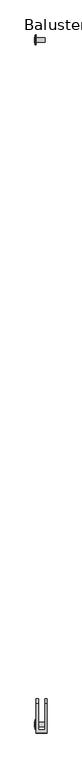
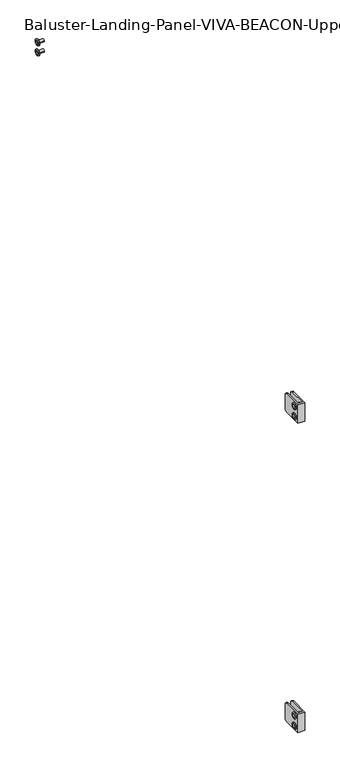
"""IFC4 building model written with IfcOpenShell, lengths in millimetres: railing geometry, Baluster-Landing-Panel-VIVA-BEACON-Upper : Standard_Glass."""

from ifc_helpers import new_model, si_unit, point, frame, origin, place, context, project, spatial, polyline, circle_curve, ellipse_curve, trimmed, outline, extrude, source, transform, mapped, element, save
from ifc_brep_helpers import plane_surface, cylinder_surface, revolved_surface, advanced_brep


def baluster_landing_panel_viva_beacon_upper_standard_glass_71d95eab(model_context):
    return source(origin(), model_context, "Body", "SolidModel", [
        extrude(outline(polyline([(-1009.1319632, 970.111725), (-1007.084999, 973.6571709), (-1002.9910707, 973.6571709), (-1000.9441066, 970.111725), (-1002.9910707, 966.5662791), (-1007.084999, 966.5662791), (-1009.1319632, 970.111725)])), frame((26.0686477, 0.0, 0.0), z_axis=(1.0, 0.0, 0.0), x_axis=(0.0, 1.0, 0.0)), (0.0, 0.0, 1.0), 1.4969696),
        advanced_brep(
        [(41.1327292, -1008.5834808, 970.111725), (28.4327292, -1008.5834808, 970.111725), (28.4327292, -1001.492589, 970.111725), (41.1327292, -1001.492589, 970.111725), (28.4327292, -1012.445824, 970.111725), (28.4327292, -997.6302458, 970.111725), (27.5656173, -1006.6941103, 970.111725), (41.1327292, -1006.6941103, 970.111725), (41.1327292, -1003.3819595, 970.111725), (27.5656173, -1003.3819595, 970.111725), (27.5978844, -1012.445824, 970.111725), (26.3166123, -1011.1645519, 970.111725), (26.3166123, -998.9115178, 970.111725), (27.5978844, -997.6302458, 970.111725), (26.3166123, -1009.3366304, 970.111725), (26.3166123, -1000.7394393, 970.111725), (27.5656173, -1009.3366304, 970.111725), (27.5656173, -1000.7394393, 970.111725)],
        [
            (0, 1),
            (1, 2, circle_curve(frame((28.4327292, -1005.0380349, 970.111725), z_axis=(1.0, 0.0, 0.0), x_axis=(0.0, 1.0, 0.0)), 3.5454459)),
            (2, 3),
            (3, 0, circle_curve(frame((41.1327292, -1005.0380349, 970.111725), z_axis=(-1.0, 0.0, 0.0), x_axis=(0.0, 1.0, 0.0)), 3.5454459)),
            (2, 1, circle_curve(frame((28.4327292, -1005.0380349, 970.111725), z_axis=(1.0, 0.0, 0.0), x_axis=(0.0, 1.0, 0.0)), 3.5454459)),
            (0, 3, circle_curve(frame((41.1327292, -1005.0380349, 970.111725), z_axis=(-1.0, 0.0, 0.0), x_axis=(0.0, 1.0, 0.0)), 3.5454459)),
            (1, 4),
            (4, 5, circle_curve(frame((28.4327292, -1005.0380349, 970.111725), z_axis=(1.0, 0.0, 0.0), x_axis=(0.0, 1.0, 0.0)), 7.4077891)),
            (5, 2),
            (5, 4, circle_curve(frame((28.4327292, -1005.0380349, 970.111725), z_axis=(1.0, 0.0, 0.0), x_axis=(0.0, 1.0, 0.0)), 7.4077891)),
            (6, 7),
            (7, 8, circle_curve(frame((41.1327292, -1005.0380349, 970.111725), z_axis=(1.0, 0.0, 0.0), x_axis=(0.0, 1.0, 0.0)), 1.6560754)),
            (8, 9),
            (9, 6, circle_curve(frame((27.5656173, -1005.0380349, 970.111725), z_axis=(-1.0, 0.0, 0.0), x_axis=(0.0, 1.0, 0.0)), 1.6560754)),
            (8, 7, circle_curve(frame((41.1327292, -1005.0380349, 970.111725), z_axis=(1.0, 0.0, 0.0), x_axis=(0.0, 1.0, 0.0)), 1.6560754)),
            (6, 9, circle_curve(frame((27.5656173, -1005.0380349, 970.111725), z_axis=(-1.0, 0.0, 0.0), x_axis=(0.0, 1.0, 0.0)), 1.6560754)),
            (10, 11, circle_curve(frame((27.5978844, -1011.1645519, 970.111725), z_axis=(0.0, 0.0, -1.0), x_axis=(0.0, -1.0, 0.0)), 1.281272)),
            (11, 12, circle_curve(frame((26.3166123, -1005.0380349, 970.111725), z_axis=(1.0, 0.0, 0.0), x_axis=(0.0, 1.0, 0.0)), 6.1265171)),
            (12, 13, circle_curve(frame((27.5978844, -998.9115178, 970.111725), z_axis=(0.0, 0.0, -1.0), x_axis=(0.0, 1.0, 0.0)), 1.281272)),
            (13, 10, circle_curve(frame((27.5978844, -1005.0380349, 970.111725), z_axis=(-1.0, 0.0, 0.0), x_axis=(0.0, 1.0, 0.0)), 7.4077891)),
            (12, 11, circle_curve(frame((26.3166123, -1005.0380349, 970.111725), z_axis=(1.0, 0.0, 0.0), x_axis=(0.0, 1.0, 0.0)), 6.1265171)),
            (10, 13, circle_curve(frame((27.5978844, -1005.0380349, 970.111725), z_axis=(-1.0, 0.0, 0.0), x_axis=(0.0, 1.0, 0.0)), 7.4077891)),
            (11, 14),
            (14, 15, circle_curve(frame((26.3166123, -1005.0380349, 970.111725), z_axis=(1.0, 0.0, 0.0), x_axis=(0.0, 1.0, 0.0)), 4.2985955)),
            (15, 12),
            (15, 14, circle_curve(frame((26.3166123, -1005.0380349, 970.111725), z_axis=(1.0, 0.0, 0.0), x_axis=(0.0, 1.0, 0.0)), 4.2985955)),
            (4, 10),
            (13, 5),
            (7, 0),
            (3, 8),
            (14, 16),
            (16, 17, circle_curve(frame((27.5656173, -1005.0380349, 970.111725), z_axis=(1.0, 0.0, 0.0), x_axis=(0.0, 1.0, 0.0)), 4.2985955)),
            (17, 15),
            (17, 16, circle_curve(frame((27.5656173, -1005.0380349, 970.111725), z_axis=(1.0, 0.0, 0.0), x_axis=(0.0, 1.0, 0.0)), 4.2985955)),
            (16, 6),
            (9, 17),
        ],
        [
            cylinder_surface(frame((31.9294623, -1005.0380349, 970.111725), z_axis=(1.0, 0.0, 0.0), x_axis=(0.0, 1.0, 0.0)), 3.5454459),
            plane_surface(frame((28.4327292, -1005.0380349, 970.111725), z_axis=(1.0, 0.0, 0.0), x_axis=(0.0, 1.0, 0.0))),
            revolved_surface(polyline([(41.1327292, -1003.3819595, 970.111725), (27.5656173, -1003.3819595, 970.111725)]), (31.9294623, -1005.0380349, 970.111725), (1.0, 0.0, 0.0)),
            revolved_surface(trimmed(ellipse_curve(frame((27.5978844, -998.9115178, 970.111725), z_axis=(0.0, 0.0, -1.0), x_axis=(0.0, 1.0, 0.0)), 1.281272, 1.281272), [point((26.3166123, -998.9115178, 970.111725))], [point((27.5978844, -997.6302458, 970.111725))], True, "CARTESIAN"), (31.9294623, -1005.0380349, 970.111725), (1.0, 0.0, 0.0)),
            plane_surface(frame((26.3166123, -1005.0380349, 970.111725), z_axis=(-1.0, 0.0, 0.0), x_axis=(0.0, 1.0, 0.0))),
            cylinder_surface(frame((31.9294623, -1005.0380349, 970.111725), z_axis=(1.0, 0.0, 0.0), x_axis=(0.0, 1.0, 0.0)), 7.4077891),
            plane_surface(frame((41.1327292, -1005.0380349, 970.111725), z_axis=(1.0, 0.0, 0.0), x_axis=(0.0, 1.0, 0.0))),
            revolved_surface(polyline([(27.5656173, -1000.7394393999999, 970.111725), (26.3166123, -1000.7394393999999, 970.111725)]), (31.9294623, -1005.0380349, 970.111725), (1.0, 0.0, 0.0)),
            plane_surface(frame((27.5656173, -1005.0380349, 970.111725), z_axis=(-1.0, 0.0, 0.0), x_axis=(0.0, 1.0, 0.0))),
        ],
        [
            (0, [[1, 2, 3, 4]]),
            (0, [[-3, 5, -1, 6]]),
            (1, [[7, 8, 9, -2]]),
            (1, [[-9, 10, -7, -5]]),
            (2, [[11, 12, 13, 14]]),
            (2, [[-13, 15, -11, 16]]),
            (3, [[17, 18, 19, 20]]),
            (3, [[-19, 21, -17, 22]]),
            (4, [[23, 24, 25, -18]]),
            (4, [[-25, 26, -23, -21]]),
            (5, [[27, -20, 28, -8]]),
            (5, [[-28, -22, -27, -10]]),
            (6, [[29, -4, 30, -12]]),
            (6, [[-30, -6, -29, -15]]),
            (7, [[31, 32, 33, -24]]),
            (7, [[-33, 34, -31, -26]]),
            (8, [[35, -14, 36, -32]]),
            (8, [[-36, -16, -35, -34]]),
        ],
    ),
        advanced_brep(
        [(41.1327292, -1008.5834808, 945.505475), (28.4327292, -1008.5834808, 945.505475), (28.4327292, -1001.492589, 945.505475), (41.1327292, -1001.492589, 945.505475), (28.4327292, -1012.445824, 945.505475), (28.4327292, -997.6302458, 945.505475), (27.5656173, -1006.6941103, 945.505475), (41.1327292, -1006.6941103, 945.505475), (41.1327292, -1003.3819595, 945.505475), (27.5656173, -1003.3819595, 945.505475), (27.5978844, -1012.445824, 945.505475), (26.3166123, -1011.1645519, 945.505475), (26.3166123, -998.9115178, 945.505475), (27.5978844, -997.6302458, 945.505475), (26.3166123, -1009.3366304, 945.505475), (26.3166123, -1000.7394393, 945.505475), (27.5656173, -1009.3366304, 945.505475), (27.5656173, -1000.7394393, 945.505475)],
        [
            (0, 1),
            (1, 2, circle_curve(frame((28.4327292, -1005.0380349, 945.505475), z_axis=(1.0, 0.0, 0.0), x_axis=(0.0, 1.0, 0.0)), 3.5454459)),
            (2, 3),
            (3, 0, circle_curve(frame((41.1327292, -1005.0380349, 945.505475), z_axis=(-1.0, 0.0, 0.0), x_axis=(0.0, 1.0, 0.0)), 3.5454459)),
            (2, 1, circle_curve(frame((28.4327292, -1005.0380349, 945.505475), z_axis=(1.0, 0.0, 0.0), x_axis=(0.0, 1.0, 0.0)), 3.5454459)),
            (0, 3, circle_curve(frame((41.1327292, -1005.0380349, 945.505475), z_axis=(-1.0, 0.0, 0.0), x_axis=(0.0, 1.0, 0.0)), 3.5454459)),
            (1, 4),
            (4, 5, circle_curve(frame((28.4327292, -1005.0380349, 945.505475), z_axis=(1.0, 0.0, 0.0), x_axis=(0.0, 1.0, 0.0)), 7.4077891)),
            (5, 2),
            (5, 4, circle_curve(frame((28.4327292, -1005.0380349, 945.505475), z_axis=(1.0, 0.0, 0.0), x_axis=(0.0, 1.0, 0.0)), 7.4077891)),
            (6, 7),
            (7, 8, circle_curve(frame((41.1327292, -1005.0380349, 945.505475), z_axis=(1.0, 0.0, 0.0), x_axis=(0.0, 1.0, 0.0)), 1.6560754)),
            (8, 9),
            (9, 6, circle_curve(frame((27.5656173, -1005.0380349, 945.505475), z_axis=(-1.0, 0.0, 0.0), x_axis=(0.0, 1.0, 0.0)), 1.6560754)),
            (8, 7, circle_curve(frame((41.1327292, -1005.0380349, 945.505475), z_axis=(1.0, 0.0, 0.0), x_axis=(0.0, 1.0, 0.0)), 1.6560754)),
            (6, 9, circle_curve(frame((27.5656173, -1005.0380349, 945.505475), z_axis=(-1.0, 0.0, 0.0), x_axis=(0.0, 1.0, 0.0)), 1.6560754)),
            (10, 11, circle_curve(frame((27.5978844, -1011.1645519, 945.505475), z_axis=(0.0, 0.0, -1.0), x_axis=(0.0, -1.0, 0.0)), 1.281272)),
            (11, 12, circle_curve(frame((26.3166123, -1005.0380349, 945.505475), z_axis=(1.0, 0.0, 0.0), x_axis=(0.0, 1.0, 0.0)), 6.1265171)),
            (12, 13, circle_curve(frame((27.5978844, -998.9115178, 945.505475), z_axis=(0.0, 0.0, -1.0), x_axis=(0.0, 1.0, 0.0)), 1.281272)),
            (13, 10, circle_curve(frame((27.5978844, -1005.0380349, 945.505475), z_axis=(-1.0, 0.0, 0.0), x_axis=(0.0, 1.0, 0.0)), 7.4077891)),
            (12, 11, circle_curve(frame((26.3166123, -1005.0380349, 945.505475), z_axis=(1.0, 0.0, 0.0), x_axis=(0.0, 1.0, 0.0)), 6.1265171)),
            (10, 13, circle_curve(frame((27.5978844, -1005.0380349, 945.505475), z_axis=(-1.0, 0.0, 0.0), x_axis=(0.0, 1.0, 0.0)), 7.4077891)),
            (11, 14),
            (14, 15, circle_curve(frame((26.3166123, -1005.0380349, 945.505475), z_axis=(1.0, 0.0, 0.0), x_axis=(0.0, 1.0, 0.0)), 4.2985955)),
            (15, 12),
            (15, 14, circle_curve(frame((26.3166123, -1005.0380349, 945.505475), z_axis=(1.0, 0.0, 0.0), x_axis=(0.0, 1.0, 0.0)), 4.2985955)),
            (7, 0),
            (3, 8),
            (4, 10),
            (13, 5),
            (14, 16),
            (16, 17, circle_curve(frame((27.5656173, -1005.0380349, 945.505475), z_axis=(1.0, 0.0, 0.0), x_axis=(0.0, 1.0, 0.0)), 4.2985955)),
            (17, 15),
            (17, 16, circle_curve(frame((27.5656173, -1005.0380349, 945.505475), z_axis=(1.0, 0.0, 0.0), x_axis=(0.0, 1.0, 0.0)), 4.2985955)),
            (16, 6),
            (9, 17),
        ],
        [
            cylinder_surface(frame((31.9294623, -1005.0380349, 945.505475), z_axis=(1.0, 0.0, 0.0), x_axis=(0.0, 1.0, 0.0)), 3.5454459),
            plane_surface(frame((28.4327292, -1005.0380349, 945.505475), z_axis=(1.0, 0.0, 0.0), x_axis=(0.0, 1.0, 0.0))),
            revolved_surface(polyline([(41.1327292, -1003.3819595, 945.505475), (27.5656173, -1003.3819595, 945.505475)]), (31.9294623, -1005.0380349, 945.505475), (1.0, 0.0, 0.0)),
            revolved_surface(trimmed(ellipse_curve(frame((27.5978844, -998.9115178, 945.505475), z_axis=(0.0, 0.0, -1.0), x_axis=(0.0, 1.0, 0.0)), 1.281272, 1.281272), [point((26.3166123, -998.9115178, 945.505475))], [point((27.5978844, -997.6302458, 945.505475))], True, "CARTESIAN"), (31.9294623, -1005.0380349, 945.505475), (1.0, 0.0, 0.0)),
            plane_surface(frame((26.3166123, -1005.0380349, 945.505475), z_axis=(-1.0, 0.0, 0.0), x_axis=(0.0, 1.0, 0.0))),
            plane_surface(frame((41.1327292, -1005.0380349, 945.505475), z_axis=(1.0, 0.0, 0.0), x_axis=(0.0, 1.0, 0.0))),
            cylinder_surface(frame((31.9294623, -1005.0380349, 945.505475), z_axis=(1.0, 0.0, 0.0), x_axis=(0.0, 1.0, 0.0)), 7.4077891),
            revolved_surface(polyline([(27.5656173, -1000.7394393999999, 945.505475), (26.3166123, -1000.7394393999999, 945.505475)]), (31.9294623, -1005.0380349, 945.505475), (1.0, 0.0, 0.0)),
            plane_surface(frame((27.5656173, -1005.0380349, 945.505475), z_axis=(-1.0, 0.0, 0.0), x_axis=(0.0, 1.0, 0.0))),
        ],
        [
            (0, [[1, 2, 3, 4]]),
            (0, [[-3, 5, -1, 6]]),
            (1, [[7, 8, 9, -2]]),
            (1, [[-9, 10, -7, -5]]),
            (2, [[11, 12, 13, 14]]),
            (2, [[-13, 15, -11, 16]]),
            (3, [[17, 18, 19, 20]]),
            (3, [[-19, 21, -17, 22]]),
            (4, [[23, 24, 25, -18]]),
            (4, [[-25, 26, -23, -21]]),
            (5, [[27, -4, 28, -12]]),
            (5, [[-28, -6, -27, -15]]),
            (6, [[29, -20, 30, -8]]),
            (6, [[-30, -22, -29, -10]]),
            (7, [[31, 32, 33, -24]]),
            (7, [[-33, 34, -31, -26]]),
            (8, [[35, -14, 36, -32]]),
            (8, [[-36, -16, -35, -34]]),
        ],
    ),
        extrude(outline(polyline([(-1009.1319632, 945.505475), (-1007.084999, 949.0509209), (-1002.9910707, 949.0509209), (-1000.9441066, 945.505475), (-1002.9910707, 941.9600291), (-1007.084999, 941.9600291), (-1009.1319632, 945.505475)])), frame((26.0686477, 0.0, 0.0), z_axis=(1.0, 0.0, 0.0), x_axis=(0.0, 1.0, 0.0)), (0.0, 0.0, 1.0), 1.4969696),
        advanced_brep(
        [(28.4327292, -1017.6713797, 980.0336), (28.4327292, -973.2213797, 980.0336), (28.4327292, -966.8713797, 973.6836), (28.4327292, -966.8713797, 941.9336), (28.4327292, -973.2213797, 935.5836), (28.4327292, -1017.6713797, 935.5836), (44.3077292, -1017.6713797, 980.0336), (44.3077292, -1017.6713797, 935.5836), (44.3077292, -973.2213797, 935.5836), (44.3077292, -966.8713797, 941.9336), (44.3077292, -966.8713797, 973.6836), (44.3077292, -973.2213797, 980.0336), (31.6077292, -973.2213797, 935.5836), (31.6077292, -1012.9532993, 935.5836), (41.1327292, -1012.9532993, 935.5836), (41.1327292, -973.2213797, 935.5836), (31.6077292, -1012.9532993, 980.0336), (41.1327292, -1012.9532993, 980.0336), (31.6077292, -966.8713797, 941.9336), (31.6077292, -966.8713797, 973.6836), (31.6077292, -973.2213797, 980.0336), (41.1327292, -973.2213797, 980.0336), (41.1327292, -966.8713797, 973.6836), (41.1327292, -966.8713797, 941.9336)],
        [
            (0, 1),
            (1, 2, circle_curve(frame((28.4327292, -973.2213797, 973.6836), z_axis=(-1.0, 0.0, 0.0), x_axis=(0.0, 1.0, 0.0)), 6.35)),
            (2, 3),
            (3, 4, circle_curve(frame((28.4327292, -973.2213797, 941.9336), z_axis=(-1.0, 0.0, 0.0), x_axis=(0.0, 1.0, 0.0)), 6.35)),
            (4, 5),
            (5, 0),
            (6, 7),
            (7, 8),
            (8, 9, circle_curve(frame((44.3077292, -973.2213797, 941.9336), z_axis=(1.0, 0.0, 0.0), x_axis=(0.0, 1.0, 0.0)), 6.35)),
            (9, 10),
            (10, 11, circle_curve(frame((44.3077292, -973.2213797, 973.6836), z_axis=(1.0, 0.0, 0.0), x_axis=(0.0, 1.0, 0.0)), 6.35)),
            (11, 6),
            (5, 7),
            (6, 0),
            (4, 12),
            (12, 13),
            (13, 14),
            (14, 15),
            (15, 8),
            (13, 16),
            (16, 17),
            (17, 14),
            (12, 18, circle_curve(frame((31.6077292, -973.2213797, 941.9336), z_axis=(1.0, 0.0, 0.0), x_axis=(0.0, 1.0, 0.0)), 6.35)),
            (18, 19),
            (19, 20, circle_curve(frame((31.6077292, -973.2213797, 973.6836), z_axis=(1.0, 0.0, 0.0), x_axis=(0.0, 1.0, 0.0)), 6.35)),
            (20, 16),
            (17, 21),
            (21, 22, circle_curve(frame((41.1327292, -973.2213797, 973.6836), z_axis=(-1.0, 0.0, 0.0), x_axis=(0.0, 1.0, 0.0)), 6.35)),
            (22, 23),
            (23, 15, circle_curve(frame((41.1327292, -973.2213797, 941.9336), z_axis=(-1.0, 0.0, 0.0), x_axis=(0.0, 1.0, 0.0)), 6.35)),
            (23, 9),
            (3, 18),
            (22, 10),
            (2, 19),
            (21, 11),
            (1, 20),
        ],
        [
            plane_surface(frame((28.4327292, -1017.6713797, 935.5836), z_axis=(-1.0, 0.0, 0.0), x_axis=(0.0, 0.0, -1.0))),
            plane_surface(frame((44.3077292, -1017.6713797, 935.5836), z_axis=(1.0, 0.0, 0.0), x_axis=(0.0, 0.0, 1.0))),
            plane_surface(frame((28.4327292, -1017.6713797, 980.0336), z_axis=(0.0, -1.0, 0.0), x_axis=(1.0, 0.0, 0.0))),
            plane_surface(frame((28.4327292, -1017.6713797, 935.5836), z_axis=(0.0, 0.0, -1.0), x_axis=(1.0, 0.0, 0.0))),
            plane_surface(frame((41.1327292, -1012.9532993, 992.7336), z_axis=(0.0, 1.0, 0.0), x_axis=(0.0, 0.0, -1.0))),
            plane_surface(frame((31.6077292, -1012.9532993, 992.7336), z_axis=(1.0, 0.0, 0.0), x_axis=(0.0, 0.0, -1.0))),
            plane_surface(frame((41.1327292, -954.1713797, 992.7336), z_axis=(-1.0, 0.0, 0.0), x_axis=(0.0, 0.0, -1.0))),
            cylinder_surface(frame((44.3077292, -973.2213797, 941.9336), z_axis=(-1.0, 0.0, 0.0), x_axis=(0.0, 1.0, 0.0)), 6.35),
            plane_surface(frame((28.4327292, -966.8713797, 941.9336), z_axis=(0.0, 1.0, 0.0), x_axis=(1.0, 0.0, 0.0))),
            cylinder_surface(frame((44.3077292, -973.2213797, 973.6836), z_axis=(-1.0, 0.0, 0.0), x_axis=(0.0, 1.0, 0.0)), 6.35),
            plane_surface(frame((28.4327292, -973.2213797, 980.0336), z_axis=(0.0, 0.0, 1.0), x_axis=(1.0, 0.0, 0.0))),
        ],
        [
            (0, [[1, 2, 3, 4, 5, 6]]),
            (1, [[7, 8, 9, 10, 11, 12]]),
            (2, [[13, -7, 14, -6]]),
            (3, [[15, 16, 17, 18, 19, -8, -13, -5]]),
            (4, [[-17, 20, 21, 22]]),
            (5, [[-16, 23, 24, 25, 26, -20]]),
            (6, [[27, 28, 29, 30, -18, -22]]),
            (7, [[-19, -30, 31, -9]]),
            (7, [[32, -23, -15, -4]]),
            (8, [[-31, -29, 33, -10]]),
            (8, [[34, -24, -32, -3]]),
            (9, [[-33, -28, 35, -11]]),
            (9, [[36, -25, -34, -2]]),
            (10, [[-14, -12, -35, -27, -21, -26, -36, -1]]),
        ],
    ),
        extrude(outline(polyline([(-1009.1319632, 220.73255), (-1007.084999, 224.2779959), (-1002.9910707, 224.2779959), (-1000.9441066, 220.73255), (-1002.9910707, 217.1871041), (-1007.084999, 217.1871041), (-1009.1319632, 220.73255)])), frame((26.0686477, 0.0, 0.0), z_axis=(1.0, 0.0, 0.0), x_axis=(0.0, 1.0, 0.0)), (0.0, 0.0, 1.0), 1.4969696),
        advanced_brep(
        [(41.1327292, -1008.5834808, 220.73255), (28.4327292, -1008.5834808, 220.73255), (28.4327292, -1001.492589, 220.73255), (41.1327292, -1001.492589, 220.73255), (28.4327292, -1012.445824, 220.73255), (28.4327292, -997.6302458, 220.73255), (27.5656173, -1006.6941103, 220.73255), (41.1327292, -1006.6941103, 220.73255), (41.1327292, -1003.3819595, 220.73255), (27.5656173, -1003.3819595, 220.73255), (27.5978844, -1012.445824, 220.73255), (26.3166123, -1011.1645519, 220.73255), (26.3166123, -998.9115178, 220.73255), (27.5978844, -997.6302458, 220.73255), (26.3166123, -1009.3366304, 220.73255), (26.3166123, -1000.7394393, 220.73255), (27.5656173, -1009.3366304, 220.73255), (27.5656173, -1000.7394393, 220.73255)],
        [
            (0, 1),
            (1, 2, circle_curve(frame((28.4327292, -1005.0380349, 220.73255), z_axis=(1.0, 0.0, 0.0), x_axis=(0.0, 1.0, 0.0)), 3.5454459)),
            (2, 3),
            (3, 0, circle_curve(frame((41.1327292, -1005.0380349, 220.73255), z_axis=(-1.0, 0.0, 0.0), x_axis=(0.0, 1.0, 0.0)), 3.5454459)),
            (2, 1, circle_curve(frame((28.4327292, -1005.0380349, 220.73255), z_axis=(1.0, 0.0, 0.0), x_axis=(0.0, 1.0, 0.0)), 3.5454459)),
            (0, 3, circle_curve(frame((41.1327292, -1005.0380349, 220.73255), z_axis=(-1.0, 0.0, 0.0), x_axis=(0.0, 1.0, 0.0)), 3.5454459)),
            (1, 4),
            (4, 5, circle_curve(frame((28.4327292, -1005.0380349, 220.73255), z_axis=(1.0, 0.0, 0.0), x_axis=(0.0, 1.0, 0.0)), 7.4077891)),
            (5, 2),
            (5, 4, circle_curve(frame((28.4327292, -1005.0380349, 220.73255), z_axis=(1.0, 0.0, 0.0), x_axis=(0.0, 1.0, 0.0)), 7.4077891)),
            (6, 7),
            (7, 8, circle_curve(frame((41.1327292, -1005.0380349, 220.73255), z_axis=(1.0, 0.0, 0.0), x_axis=(0.0, 1.0, 0.0)), 1.6560754)),
            (8, 9),
            (9, 6, circle_curve(frame((27.5656173, -1005.0380349, 220.73255), z_axis=(-1.0, 0.0, 0.0), x_axis=(0.0, 1.0, 0.0)), 1.6560754)),
            (8, 7, circle_curve(frame((41.1327292, -1005.0380349, 220.73255), z_axis=(1.0, 0.0, 0.0), x_axis=(0.0, 1.0, 0.0)), 1.6560754)),
            (6, 9, circle_curve(frame((27.5656173, -1005.0380349, 220.73255), z_axis=(-1.0, 0.0, 0.0), x_axis=(0.0, 1.0, 0.0)), 1.6560754)),
            (10, 11, circle_curve(frame((27.5978844, -1011.1645519, 220.73255), z_axis=(0.0, 0.0, -1.0), x_axis=(0.0, -1.0, 0.0)), 1.281272)),
            (11, 12, circle_curve(frame((26.3166123, -1005.0380349, 220.73255), z_axis=(1.0, 0.0, 0.0), x_axis=(0.0, 1.0, 0.0)), 6.1265171)),
            (12, 13, circle_curve(frame((27.5978844, -998.9115178, 220.73255), z_axis=(0.0, 0.0, -1.0), x_axis=(0.0, 1.0, 0.0)), 1.281272)),
            (13, 10, circle_curve(frame((27.5978844, -1005.0380349, 220.73255), z_axis=(-1.0, 0.0, 0.0), x_axis=(0.0, 1.0, 0.0)), 7.4077891)),
            (12, 11, circle_curve(frame((26.3166123, -1005.0380349, 220.73255), z_axis=(1.0, 0.0, 0.0), x_axis=(0.0, 1.0, 0.0)), 6.1265171)),
            (10, 13, circle_curve(frame((27.5978844, -1005.0380349, 220.73255), z_axis=(-1.0, 0.0, 0.0), x_axis=(0.0, 1.0, 0.0)), 7.4077891)),
            (11, 14),
            (14, 15, circle_curve(frame((26.3166123, -1005.0380349, 220.73255), z_axis=(1.0, 0.0, 0.0), x_axis=(0.0, 1.0, 0.0)), 4.2985955)),
            (15, 12),
            (15, 14, circle_curve(frame((26.3166123, -1005.0380349, 220.73255), z_axis=(1.0, 0.0, 0.0), x_axis=(0.0, 1.0, 0.0)), 4.2985955)),
            (4, 10),
            (13, 5),
            (7, 0),
            (3, 8),
            (14, 16),
            (16, 17, circle_curve(frame((27.5656173, -1005.0380349, 220.73255), z_axis=(1.0, 0.0, 0.0), x_axis=(0.0, 1.0, 0.0)), 4.2985955)),
            (17, 15),
            (17, 16, circle_curve(frame((27.5656173, -1005.0380349, 220.73255), z_axis=(1.0, 0.0, 0.0), x_axis=(0.0, 1.0, 0.0)), 4.2985955)),
            (16, 6),
            (9, 17),
        ],
        [
            cylinder_surface(frame((31.9294623, -1005.0380349, 220.73255), z_axis=(1.0, 0.0, 0.0), x_axis=(0.0, 1.0, 0.0)), 3.5454459),
            plane_surface(frame((28.4327292, -1005.0380349, 220.73255), z_axis=(1.0, 0.0, 0.0), x_axis=(0.0, 1.0, 0.0))),
            revolved_surface(polyline([(41.1327292, -1003.3819595, 220.73255), (27.5656173, -1003.3819595, 220.73255)]), (31.9294623, -1005.0380349, 220.73255), (1.0, 0.0, 0.0)),
            revolved_surface(trimmed(ellipse_curve(frame((27.5978844, -998.9115178, 220.73255), z_axis=(0.0, 0.0, -1.0), x_axis=(0.0, 1.0, 0.0)), 1.281272, 1.281272), [point((26.3166123, -998.9115178, 220.73255))], [point((27.5978844, -997.6302458, 220.73255))], True, "CARTESIAN"), (31.9294623, -1005.0380349, 220.73255), (1.0, 0.0, 0.0)),
            plane_surface(frame((26.3166123, -1005.0380349, 220.73255), z_axis=(-1.0, 0.0, 0.0), x_axis=(0.0, 1.0, 0.0))),
            cylinder_surface(frame((31.9294623, -1005.0380349, 220.73255), z_axis=(1.0, 0.0, 0.0), x_axis=(0.0, 1.0, 0.0)), 7.4077891),
            plane_surface(frame((41.1327292, -1005.0380349, 220.73255), z_axis=(1.0, 0.0, 0.0), x_axis=(0.0, 1.0, 0.0))),
            revolved_surface(polyline([(27.5656173, -1000.7394393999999, 220.73255), (26.3166123, -1000.7394393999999, 220.73255)]), (31.9294623, -1005.0380349, 220.73255), (1.0, 0.0, 0.0)),
            plane_surface(frame((27.5656173, -1005.0380349, 220.73255), z_axis=(-1.0, 0.0, 0.0), x_axis=(0.0, 1.0, 0.0))),
        ],
        [
            (0, [[1, 2, 3, 4]]),
            (0, [[-3, 5, -1, 6]]),
            (1, [[7, 8, 9, -2]]),
            (1, [[-9, 10, -7, -5]]),
            (2, [[11, 12, 13, 14]]),
            (2, [[-13, 15, -11, 16]]),
            (3, [[17, 18, 19, 20]]),
            (3, [[-19, 21, -17, 22]]),
            (4, [[23, 24, 25, -18]]),
            (4, [[-25, 26, -23, -21]]),
            (5, [[27, -20, 28, -8]]),
            (5, [[-28, -22, -27, -10]]),
            (6, [[29, -4, 30, -12]]),
            (6, [[-30, -6, -29, -15]]),
            (7, [[31, 32, 33, -24]]),
            (7, [[-33, 34, -31, -26]]),
            (8, [[35, -14, 36, -32]]),
            (8, [[-36, -16, -35, -34]]),
        ],
    ),
        advanced_brep(
        [(41.1327292, -1008.5834808, 196.1263), (28.4327292, -1008.5834808, 196.1263), (28.4327292, -1001.492589, 196.1263), (41.1327292, -1001.492589, 196.1263), (28.4327292, -1012.445824, 196.1263), (28.4327292, -997.6302458, 196.1263), (27.5656173, -1006.6941103, 196.1263), (41.1327292, -1006.6941103, 196.1263), (41.1327292, -1003.3819595, 196.1263), (27.5656173, -1003.3819595, 196.1263), (27.5978844, -1012.445824, 196.1263), (26.3166123, -1011.1645519, 196.1263), (26.3166123, -998.9115178, 196.1263), (27.5978844, -997.6302458, 196.1263), (26.3166123, -1009.3366304, 196.1263), (26.3166123, -1000.7394393, 196.1263), (27.5656173, -1009.3366304, 196.1263), (27.5656173, -1000.7394393, 196.1263)],
        [
            (0, 1),
            (1, 2, circle_curve(frame((28.4327292, -1005.0380349, 196.1263), z_axis=(1.0, 0.0, 0.0), x_axis=(0.0, 1.0, 0.0)), 3.5454459)),
            (2, 3),
            (3, 0, circle_curve(frame((41.1327292, -1005.0380349, 196.1263), z_axis=(-1.0, 0.0, 0.0), x_axis=(0.0, 1.0, 0.0)), 3.5454459)),
            (2, 1, circle_curve(frame((28.4327292, -1005.0380349, 196.1263), z_axis=(1.0, 0.0, 0.0), x_axis=(0.0, 1.0, 0.0)), 3.5454459)),
            (0, 3, circle_curve(frame((41.1327292, -1005.0380349, 196.1263), z_axis=(-1.0, 0.0, 0.0), x_axis=(0.0, 1.0, 0.0)), 3.5454459)),
            (1, 4),
            (4, 5, circle_curve(frame((28.4327292, -1005.0380349, 196.1263), z_axis=(1.0, 0.0, 0.0), x_axis=(0.0, 1.0, 0.0)), 7.4077891)),
            (5, 2),
            (5, 4, circle_curve(frame((28.4327292, -1005.0380349, 196.1263), z_axis=(1.0, 0.0, 0.0), x_axis=(0.0, 1.0, 0.0)), 7.4077891)),
            (6, 7),
            (7, 8, circle_curve(frame((41.1327292, -1005.0380349, 196.1263), z_axis=(1.0, 0.0, 0.0), x_axis=(0.0, 1.0, 0.0)), 1.6560754)),
            (8, 9),
            (9, 6, circle_curve(frame((27.5656173, -1005.0380349, 196.1263), z_axis=(-1.0, 0.0, 0.0), x_axis=(0.0, 1.0, 0.0)), 1.6560754)),
            (8, 7, circle_curve(frame((41.1327292, -1005.0380349, 196.1263), z_axis=(1.0, 0.0, 0.0), x_axis=(0.0, 1.0, 0.0)), 1.6560754)),
            (6, 9, circle_curve(frame((27.5656173, -1005.0380349, 196.1263), z_axis=(-1.0, 0.0, 0.0), x_axis=(0.0, 1.0, 0.0)), 1.6560754)),
            (10, 11, circle_curve(frame((27.5978844, -1011.1645519, 196.1263), z_axis=(0.0, 0.0, -1.0), x_axis=(0.0, -1.0, 0.0)), 1.281272)),
            (11, 12, circle_curve(frame((26.3166123, -1005.0380349, 196.1263), z_axis=(1.0, 0.0, 0.0), x_axis=(0.0, 1.0, 0.0)), 6.1265171)),
            (12, 13, circle_curve(frame((27.5978844, -998.9115178, 196.1263), z_axis=(0.0, 0.0, -1.0), x_axis=(0.0, 1.0, 0.0)), 1.281272)),
            (13, 10, circle_curve(frame((27.5978844, -1005.0380349, 196.1263), z_axis=(-1.0, 0.0, 0.0), x_axis=(0.0, 1.0, 0.0)), 7.4077891)),
            (12, 11, circle_curve(frame((26.3166123, -1005.0380349, 196.1263), z_axis=(1.0, 0.0, 0.0), x_axis=(0.0, 1.0, 0.0)), 6.1265171)),
            (10, 13, circle_curve(frame((27.5978844, -1005.0380349, 196.1263), z_axis=(-1.0, 0.0, 0.0), x_axis=(0.0, 1.0, 0.0)), 7.4077891)),
            (11, 14),
            (14, 15, circle_curve(frame((26.3166123, -1005.0380349, 196.1263), z_axis=(1.0, 0.0, 0.0), x_axis=(0.0, 1.0, 0.0)), 4.2985955)),
            (15, 12),
            (15, 14, circle_curve(frame((26.3166123, -1005.0380349, 196.1263), z_axis=(1.0, 0.0, 0.0), x_axis=(0.0, 1.0, 0.0)), 4.2985955)),
            (7, 0),
            (3, 8),
            (4, 10),
            (13, 5),
            (14, 16),
            (16, 17, circle_curve(frame((27.5656173, -1005.0380349, 196.1263), z_axis=(1.0, 0.0, 0.0), x_axis=(0.0, 1.0, 0.0)), 4.2985955)),
            (17, 15),
            (17, 16, circle_curve(frame((27.5656173, -1005.0380349, 196.1263), z_axis=(1.0, 0.0, 0.0), x_axis=(0.0, 1.0, 0.0)), 4.2985955)),
            (16, 6),
            (9, 17),
        ],
        [
            cylinder_surface(frame((31.9294623, -1005.0380349, 196.1263), z_axis=(1.0, 0.0, 0.0), x_axis=(0.0, 1.0, 0.0)), 3.5454459),
            plane_surface(frame((28.4327292, -1005.0380349, 196.1263), z_axis=(1.0, 0.0, 0.0), x_axis=(0.0, 1.0, 0.0))),
            revolved_surface(polyline([(41.1327292, -1003.3819595, 196.1263), (27.5656173, -1003.3819595, 196.1263)]), (31.9294623, -1005.0380349, 196.1263), (1.0, 0.0, 0.0)),
            revolved_surface(trimmed(ellipse_curve(frame((27.5978844, -998.9115178, 196.1263), z_axis=(0.0, 0.0, -1.0), x_axis=(0.0, 1.0, 0.0)), 1.281272, 1.281272), [point((26.3166123, -998.9115178, 196.1263))], [point((27.5978844, -997.6302458, 196.1263))], True, "CARTESIAN"), (31.9294623, -1005.0380349, 196.1263), (1.0, 0.0, 0.0)),
            plane_surface(frame((26.3166123, -1005.0380349, 196.1263), z_axis=(-1.0, 0.0, 0.0), x_axis=(0.0, 1.0, 0.0))),
            plane_surface(frame((41.1327292, -1005.0380349, 196.1263), z_axis=(1.0, 0.0, 0.0), x_axis=(0.0, 1.0, 0.0))),
            cylinder_surface(frame((31.9294623, -1005.0380349, 196.1263), z_axis=(1.0, 0.0, 0.0), x_axis=(0.0, 1.0, 0.0)), 7.4077891),
            revolved_surface(polyline([(27.5656173, -1000.7394393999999, 196.1263), (26.3166123, -1000.7394393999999, 196.1263)]), (31.9294623, -1005.0380349, 196.1263), (1.0, 0.0, 0.0)),
            plane_surface(frame((27.5656173, -1005.0380349, 196.1263), z_axis=(-1.0, 0.0, 0.0), x_axis=(0.0, 1.0, 0.0))),
        ],
        [
            (0, [[1, 2, 3, 4]]),
            (0, [[-3, 5, -1, 6]]),
            (1, [[7, 8, 9, -2]]),
            (1, [[-9, 10, -7, -5]]),
            (2, [[11, 12, 13, 14]]),
            (2, [[-13, 15, -11, 16]]),
            (3, [[17, 18, 19, 20]]),
            (3, [[-19, 21, -17, 22]]),
            (4, [[23, 24, 25, -18]]),
            (4, [[-25, 26, -23, -21]]),
            (5, [[27, -4, 28, -12]]),
            (5, [[-28, -6, -27, -15]]),
            (6, [[29, -20, 30, -8]]),
            (6, [[-30, -22, -29, -10]]),
            (7, [[31, 32, 33, -24]]),
            (7, [[-33, 34, -31, -26]]),
            (8, [[35, -14, 36, -32]]),
            (8, [[-36, -16, -35, -34]]),
        ],
    ),
        extrude(outline(polyline([(-1009.1319632, 196.1263), (-1007.084999, 199.6717459), (-1002.9910707, 199.6717459), (-1000.9441066, 196.1263), (-1002.9910707, 192.5808541), (-1007.084999, 192.5808541), (-1009.1319632, 196.1263)])), frame((26.0686477, 0.0, 0.0), z_axis=(1.0, 0.0, 0.0), x_axis=(0.0, 1.0, 0.0)), (0.0, 0.0, 1.0), 1.4969696),
        advanced_brep(
        [(28.4327292, -1017.6713797, 230.654425), (28.4327292, -973.2213797, 230.654425), (28.4327292, -966.8713797, 224.304425), (28.4327292, -966.8713797, 192.554425), (28.4327292, -973.2213797, 186.204425), (28.4327292, -1017.6713797, 186.204425), (44.3077292, -1017.6713797, 230.654425), (44.3077292, -1017.6713797, 186.204425), (44.3077292, -973.2213797, 186.204425), (44.3077292, -966.8713797, 192.554425), (44.3077292, -966.8713797, 224.304425), (44.3077292, -973.2213797, 230.654425), (31.6077292, -973.2213797, 186.204425), (31.6077292, -1012.9532993, 186.204425), (41.1327292, -1012.9532993, 186.204425), (41.1327292, -973.2213797, 186.204425), (31.6077292, -1012.9532993, 230.654425), (41.1327292, -1012.9532993, 230.654425), (31.6077292, -966.8713797, 192.554425), (31.6077292, -966.8713797, 224.304425), (31.6077292, -973.2213797, 230.654425), (41.1327292, -973.2213797, 230.654425), (41.1327292, -966.8713797, 224.304425), (41.1327292, -966.8713797, 192.554425)],
        [
            (0, 1),
            (1, 2, circle_curve(frame((28.4327292, -973.2213797, 224.304425), z_axis=(-1.0, 0.0, 0.0), x_axis=(0.0, 1.0, 0.0)), 6.35)),
            (2, 3),
            (3, 4, circle_curve(frame((28.4327292, -973.2213797, 192.554425), z_axis=(-1.0, 0.0, 0.0), x_axis=(0.0, 1.0, 0.0)), 6.35)),
            (4, 5),
            (5, 0),
            (6, 7),
            (7, 8),
            (8, 9, circle_curve(frame((44.3077292, -973.2213797, 192.554425), z_axis=(1.0, 0.0, 0.0), x_axis=(0.0, 1.0, 0.0)), 6.35)),
            (9, 10),
            (10, 11, circle_curve(frame((44.3077292, -973.2213797, 224.304425), z_axis=(1.0, 0.0, 0.0), x_axis=(0.0, 1.0, 0.0)), 6.35)),
            (11, 6),
            (5, 7),
            (6, 0),
            (4, 12),
            (12, 13),
            (13, 14),
            (14, 15),
            (15, 8),
            (13, 16),
            (16, 17),
            (17, 14),
            (12, 18, circle_curve(frame((31.6077292, -973.2213797, 192.554425), z_axis=(1.0, 0.0, 0.0), x_axis=(0.0, 1.0, 0.0)), 6.35)),
            (18, 19),
            (19, 20, circle_curve(frame((31.6077292, -973.2213797, 224.304425), z_axis=(1.0, 0.0, 0.0), x_axis=(0.0, 1.0, 0.0)), 6.35)),
            (20, 16),
            (17, 21),
            (21, 22, circle_curve(frame((41.1327292, -973.2213797, 224.304425), z_axis=(-1.0, 0.0, 0.0), x_axis=(0.0, 1.0, 0.0)), 6.35)),
            (22, 23),
            (23, 15, circle_curve(frame((41.1327292, -973.2213797, 192.554425), z_axis=(-1.0, 0.0, 0.0), x_axis=(0.0, 1.0, 0.0)), 6.35)),
            (23, 9),
            (3, 18),
            (22, 10),
            (2, 19),
            (21, 11),
            (1, 20),
        ],
        [
            plane_surface(frame((28.4327292, -1017.6713797, 186.204425), z_axis=(-1.0, 0.0, 0.0), x_axis=(0.0, 0.0, -1.0))),
            plane_surface(frame((44.3077292, -1017.6713797, 186.204425), z_axis=(1.0, 0.0, 0.0), x_axis=(0.0, 0.0, 1.0))),
            plane_surface(frame((28.4327292, -1017.6713797, 230.654425), z_axis=(0.0, -1.0, 0.0), x_axis=(1.0, 0.0, 0.0))),
            plane_surface(frame((28.4327292, -1017.6713797, 186.204425), z_axis=(0.0, 0.0, -1.0), x_axis=(1.0, 0.0, 0.0))),
            plane_surface(frame((41.1327292, -1012.9532993, 243.354425), z_axis=(0.0, 1.0, 0.0), x_axis=(0.0, 0.0, -1.0))),
            plane_surface(frame((31.6077292, -1012.9532993, 243.354425), z_axis=(1.0, 0.0, 0.0), x_axis=(0.0, 0.0, -1.0))),
            plane_surface(frame((41.1327292, -954.1713797, 243.354425), z_axis=(-1.0, 0.0, 0.0), x_axis=(0.0, 0.0, -1.0))),
            cylinder_surface(frame((44.3077292, -973.2213797, 192.554425), z_axis=(-1.0, 0.0, 0.0), x_axis=(0.0, 1.0, 0.0)), 6.35),
            plane_surface(frame((28.4327292, -966.8713797, 192.554425), z_axis=(0.0, 1.0, 0.0), x_axis=(1.0, 0.0, 0.0))),
            cylinder_surface(frame((44.3077292, -973.2213797, 224.304425), z_axis=(-1.0, 0.0, 0.0), x_axis=(0.0, 1.0, 0.0)), 6.35),
            plane_surface(frame((28.4327292, -973.2213797, 230.654425), z_axis=(0.0, 0.0, 1.0), x_axis=(1.0, 0.0, 0.0))),
        ],
        [
            (0, [[1, 2, 3, 4, 5, 6]]),
            (1, [[7, 8, 9, 10, 11, 12]]),
            (2, [[13, -7, 14, -6]]),
            (3, [[15, 16, 17, 18, 19, -8, -13, -5]]),
            (4, [[-17, 20, 21, 22]]),
            (5, [[-16, 23, 24, 25, 26, -20]]),
            (6, [[27, 28, 29, 30, -18, -22]]),
            (7, [[-19, -30, 31, -9]]),
            (7, [[32, -23, -15, -4]]),
            (8, [[-31, -29, 33, -10]]),
            (8, [[34, -24, -32, -3]]),
            (9, [[-33, -28, 35, -11]]),
            (9, [[36, -25, -34, -2]]),
            (10, [[-14, -12, -35, -27, -21, -26, -36, -1]]),
        ],
    ),
        extrude(outline(polyline([(18.4480835, 1233.0379051), (16.4011194, 1229.4924592), (12.3071911, 1229.4924592), (10.2602269, 1233.0379051), (12.3071911, 1236.583351), (16.4011194, 1236.583351), (18.4480835, 1233.0379051)])), frame((26.0686477, 0.0, 0.0), z_axis=(1.0, 0.0, 0.0), x_axis=(0.0, 1.0, 0.0)), (0.0, 0.0, 1.0), 1.4969696),
        advanced_brep(
        [(41.1327292, 17.8996011, 1233.0379051), (41.1327292, 10.8087093, 1233.0379051), (28.4327292, 10.8087093, 1233.0379051), (28.4327292, 17.8996011, 1233.0379051), (28.4327292, 6.9463661, 1233.0379051), (28.4327292, 21.7619443, 1233.0379051), (27.5656173, 16.0102306, 1233.0379051), (27.5656173, 12.6980798, 1233.0379051), (41.1327292, 12.6980798, 1233.0379051), (41.1327292, 16.0102306, 1233.0379051), (27.5978844, 21.7619443, 1233.0379051), (27.5978844, 6.9463661, 1233.0379051), (26.3166123, 8.2276382, 1233.0379051), (26.3166123, 20.4806723, 1233.0379051), (26.3166123, 10.0555597, 1233.0379051), (26.3166123, 18.6527508, 1233.0379051), (27.5656173, 10.0555597, 1233.0379051), (27.5656173, 18.6527508, 1233.0379051)],
        [
            (0, 1, circle_curve(frame((41.1327292, 14.3541552, 1233.0379051), z_axis=(-1.0, 0.0, 0.0), x_axis=(0.0, -1.0, 0.0)), 3.5454459)),
            (1, 2),
            (2, 3, circle_curve(frame((28.4327292, 14.3541552, 1233.0379051), z_axis=(1.0, 0.0, 0.0), x_axis=(0.0, -1.0, 0.0)), 3.5454459)),
            (3, 0),
            (1, 0, circle_curve(frame((41.1327292, 14.3541552, 1233.0379051), z_axis=(-1.0, 0.0, 0.0), x_axis=(0.0, -1.0, 0.0)), 3.5454459)),
            (3, 2, circle_curve(frame((28.4327292, 14.3541552, 1233.0379051), z_axis=(1.0, 0.0, 0.0), x_axis=(0.0, -1.0, 0.0)), 3.5454459)),
            (2, 4),
            (4, 5, circle_curve(frame((28.4327292, 14.3541552, 1233.0379051), z_axis=(1.0, 0.0, 0.0), x_axis=(0.0, -1.0, 0.0)), 7.4077891)),
            (5, 3),
            (5, 4, circle_curve(frame((28.4327292, 14.3541552, 1233.0379051), z_axis=(1.0, 0.0, 0.0), x_axis=(0.0, -1.0, 0.0)), 7.4077891)),
            (6, 7, circle_curve(frame((27.5656173, 14.3541552, 1233.0379051), z_axis=(-1.0, 0.0, 0.0), x_axis=(0.0, -1.0, 0.0)), 1.6560754)),
            (7, 8),
            (8, 9, circle_curve(frame((41.1327292, 14.3541552, 1233.0379051), z_axis=(1.0, 0.0, 0.0), x_axis=(0.0, -1.0, 0.0)), 1.6560754)),
            (9, 6),
            (7, 6, circle_curve(frame((27.5656173, 14.3541552, 1233.0379051), z_axis=(-1.0, 0.0, 0.0), x_axis=(0.0, -1.0, 0.0)), 1.6560754)),
            (9, 8, circle_curve(frame((41.1327292, 14.3541552, 1233.0379051), z_axis=(1.0, 0.0, 0.0), x_axis=(0.0, -1.0, 0.0)), 1.6560754)),
            (10, 11, circle_curve(frame((27.5978844, 14.3541552, 1233.0379051), z_axis=(-1.0, 0.0, 0.0), x_axis=(0.0, -1.0, 0.0)), 7.4077891)),
            (11, 12, circle_curve(frame((27.5978844, 8.2276382, 1233.0379051), z_axis=(0.0, 0.0, -1.0), x_axis=(0.0, -1.0, 0.0)), 1.281272)),
            (12, 13, circle_curve(frame((26.3166123, 14.3541552, 1233.0379051), z_axis=(1.0, 0.0, 0.0), x_axis=(0.0, -1.0, 0.0)), 6.1265171)),
            (13, 10, circle_curve(frame((27.5978844, 20.4806723, 1233.0379051), z_axis=(0.0, 0.0, -1.0), x_axis=(0.0, 1.0, 0.0)), 1.281272)),
            (11, 10, circle_curve(frame((27.5978844, 14.3541552, 1233.0379051), z_axis=(-1.0, 0.0, 0.0), x_axis=(0.0, -1.0, 0.0)), 7.4077891)),
            (13, 12, circle_curve(frame((26.3166123, 14.3541552, 1233.0379051), z_axis=(1.0, 0.0, 0.0), x_axis=(0.0, -1.0, 0.0)), 6.1265171)),
            (12, 14),
            (14, 15, circle_curve(frame((26.3166123, 14.3541552, 1233.0379051), z_axis=(1.0, 0.0, 0.0), x_axis=(0.0, -1.0, 0.0)), 4.2985955)),
            (15, 13),
            (15, 14, circle_curve(frame((26.3166123, 14.3541552, 1233.0379051), z_axis=(1.0, 0.0, 0.0), x_axis=(0.0, -1.0, 0.0)), 4.2985955)),
            (4, 11),
            (10, 5),
            (8, 1),
            (0, 9),
            (14, 16),
            (16, 17, circle_curve(frame((27.5656173, 14.3541552, 1233.0379051), z_axis=(1.0, 0.0, 0.0), x_axis=(0.0, -1.0, 0.0)), 4.2985955)),
            (17, 15),
            (17, 16, circle_curve(frame((27.5656173, 14.3541552, 1233.0379051), z_axis=(1.0, 0.0, 0.0), x_axis=(0.0, -1.0, 0.0)), 4.2985955)),
            (16, 7),
            (6, 17),
        ],
        [
            cylinder_surface(frame((31.9294623, 14.3541552, 1233.0379051), z_axis=(1.0, 0.0, 0.0), x_axis=(0.0, -1.0, 0.0)), 3.5454459),
            plane_surface(frame((28.4327292, 14.3541552, 1233.0379051), z_axis=(1.0, 0.0, 0.0), x_axis=(0.0, -1.0, 0.0))),
            revolved_surface(polyline([(41.1327292, 12.698079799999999, 1233.0379051), (27.5656173, 12.698079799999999, 1233.0379051)]), (31.9294623, 14.3541552, 1233.0379051), (1.0, 0.0, 0.0)),
            revolved_surface(trimmed(ellipse_curve(frame((27.5978844, 8.2276382, 1233.0379051), z_axis=(0.0, 0.0, 1.0), x_axis=(0.0, -1.0, 0.0)), 1.281272, 1.281272), [point((26.3166123, 8.2276382, 1233.0379051))], [point((27.5978844, 6.9463661, 1233.0379051))], True, "CARTESIAN"), (31.9294623, 14.3541552, 1233.0379051), (1.0, 0.0, 0.0)),
            plane_surface(frame((26.3166123, 14.3541552, 1233.0379051), z_axis=(-1.0, 0.0, 0.0), x_axis=(0.0, -1.0, 0.0))),
            cylinder_surface(frame((31.9294623, 14.3541552, 1233.0379051), z_axis=(1.0, 0.0, 0.0), x_axis=(0.0, -1.0, 0.0)), 7.4077891),
            plane_surface(frame((41.1327292, 14.3541552, 1233.0379051), z_axis=(1.0, 0.0, 0.0), x_axis=(0.0, -1.0, 0.0))),
            revolved_surface(polyline([(27.5656173, 10.0555597, 1233.0379051), (26.3166123, 10.0555597, 1233.0379051)]), (31.9294623, 14.3541552, 1233.0379051), (1.0, 0.0, 0.0)),
            plane_surface(frame((27.5656173, 14.3541552, 1233.0379051), z_axis=(-1.0, 0.0, 0.0), x_axis=(0.0, -1.0, 0.0))),
        ],
        [
            (0, [[1, 2, 3, 4]]),
            (0, [[5, -4, 6, -2]]),
            (1, [[-3, 7, 8, 9]]),
            (1, [[-6, -9, 10, -7]]),
            (2, [[11, 12, 13, 14]]),
            (2, [[15, -14, 16, -12]]),
            (3, [[17, 18, 19, 20]]),
            (3, [[21, -20, 22, -18]]),
            (4, [[-19, 23, 24, 25]]),
            (4, [[-22, -25, 26, -23]]),
            (5, [[-8, 27, -17, 28]]),
            (5, [[-10, -28, -21, -27]]),
            (6, [[-13, 29, -1, 30]]),
            (6, [[-16, -30, -5, -29]]),
            (7, [[-24, 31, 32, 33]]),
            (7, [[-26, -33, 34, -31]]),
            (8, [[-32, 35, -11, 36]]),
            (8, [[-34, -36, -15, -35]]),
        ],
    ),
        advanced_brep(
        [(41.1327292, 17.8996011, 1208.4316551), (41.1327292, 10.8087093, 1208.4316551), (28.4327292, 10.8087093, 1208.4316551), (28.4327292, 17.8996011, 1208.4316551), (28.4327292, 6.9463661, 1208.4316551), (28.4327292, 21.7619443, 1208.4316551), (27.5656173, 16.0102306, 1208.4316551), (27.5656173, 12.6980798, 1208.4316551), (41.1327292, 12.6980798, 1208.4316551), (41.1327292, 16.0102306, 1208.4316551), (27.5978844, 21.7619443, 1208.4316551), (27.5978844, 6.9463661, 1208.4316551), (26.3166123, 8.2276382, 1208.4316551), (26.3166123, 20.4806723, 1208.4316551), (26.3166123, 10.0555597, 1208.4316551), (26.3166123, 18.6527508, 1208.4316551), (27.5656173, 10.0555597, 1208.4316551), (27.5656173, 18.6527508, 1208.4316551)],
        [
            (0, 1, circle_curve(frame((41.1327292, 14.3541552, 1208.4316551), z_axis=(-1.0, 0.0, 0.0), x_axis=(0.0, -1.0, 0.0)), 3.5454459)),
            (1, 2),
            (2, 3, circle_curve(frame((28.4327292, 14.3541552, 1208.4316551), z_axis=(1.0, 0.0, 0.0), x_axis=(0.0, -1.0, 0.0)), 3.5454459)),
            (3, 0),
            (1, 0, circle_curve(frame((41.1327292, 14.3541552, 1208.4316551), z_axis=(-1.0, 0.0, 0.0), x_axis=(0.0, -1.0, 0.0)), 3.5454459)),
            (3, 2, circle_curve(frame((28.4327292, 14.3541552, 1208.4316551), z_axis=(1.0, 0.0, 0.0), x_axis=(0.0, -1.0, 0.0)), 3.5454459)),
            (2, 4),
            (4, 5, circle_curve(frame((28.4327292, 14.3541552, 1208.4316551), z_axis=(1.0, 0.0, 0.0), x_axis=(0.0, -1.0, 0.0)), 7.4077891)),
            (5, 3),
            (5, 4, circle_curve(frame((28.4327292, 14.3541552, 1208.4316551), z_axis=(1.0, 0.0, 0.0), x_axis=(0.0, -1.0, 0.0)), 7.4077891)),
            (6, 7, circle_curve(frame((27.5656173, 14.3541552, 1208.4316551), z_axis=(-1.0, 0.0, 0.0), x_axis=(0.0, -1.0, 0.0)), 1.6560754)),
            (7, 8),
            (8, 9, circle_curve(frame((41.1327292, 14.3541552, 1208.4316551), z_axis=(1.0, 0.0, 0.0), x_axis=(0.0, -1.0, 0.0)), 1.6560754)),
            (9, 6),
            (7, 6, circle_curve(frame((27.5656173, 14.3541552, 1208.4316551), z_axis=(-1.0, 0.0, 0.0), x_axis=(0.0, -1.0, 0.0)), 1.6560754)),
            (9, 8, circle_curve(frame((41.1327292, 14.3541552, 1208.4316551), z_axis=(1.0, 0.0, 0.0), x_axis=(0.0, -1.0, 0.0)), 1.6560754)),
            (10, 11, circle_curve(frame((27.5978844, 14.3541552, 1208.4316551), z_axis=(-1.0, 0.0, 0.0), x_axis=(0.0, -1.0, 0.0)), 7.4077891)),
            (11, 12, circle_curve(frame((27.5978844, 8.2276382, 1208.4316551), z_axis=(0.0, 0.0, -1.0), x_axis=(0.0, -1.0, 0.0)), 1.281272)),
            (12, 13, circle_curve(frame((26.3166123, 14.3541552, 1208.4316551), z_axis=(1.0, 0.0, 0.0), x_axis=(0.0, -1.0, 0.0)), 6.1265171)),
            (13, 10, circle_curve(frame((27.5978844, 20.4806723, 1208.4316551), z_axis=(0.0, 0.0, -1.0), x_axis=(0.0, 1.0, 0.0)), 1.281272)),
            (11, 10, circle_curve(frame((27.5978844, 14.3541552, 1208.4316551), z_axis=(-1.0, 0.0, 0.0), x_axis=(0.0, -1.0, 0.0)), 7.4077891)),
            (13, 12, circle_curve(frame((26.3166123, 14.3541552, 1208.4316551), z_axis=(1.0, 0.0, 0.0), x_axis=(0.0, -1.0, 0.0)), 6.1265171)),
            (12, 14),
            (14, 15, circle_curve(frame((26.3166123, 14.3541552, 1208.4316551), z_axis=(1.0, 0.0, 0.0), x_axis=(0.0, -1.0, 0.0)), 4.2985955)),
            (15, 13),
            (15, 14, circle_curve(frame((26.3166123, 14.3541552, 1208.4316551), z_axis=(1.0, 0.0, 0.0), x_axis=(0.0, -1.0, 0.0)), 4.2985955)),
            (8, 1),
            (0, 9),
            (4, 11),
            (10, 5),
            (14, 16),
            (16, 17, circle_curve(frame((27.5656173, 14.3541552, 1208.4316551), z_axis=(1.0, 0.0, 0.0), x_axis=(0.0, -1.0, 0.0)), 4.2985955)),
            (17, 15),
            (17, 16, circle_curve(frame((27.5656173, 14.3541552, 1208.4316551), z_axis=(1.0, 0.0, 0.0), x_axis=(0.0, -1.0, 0.0)), 4.2985955)),
            (16, 7),
            (6, 17),
        ],
        [
            cylinder_surface(frame((31.9294623, 14.3541552, 1208.4316551), z_axis=(1.0, 0.0, 0.0), x_axis=(0.0, -1.0, 0.0)), 3.5454459),
            plane_surface(frame((28.4327292, 14.3541552, 1208.4316551), z_axis=(1.0, 0.0, 0.0), x_axis=(0.0, -1.0, 0.0))),
            revolved_surface(polyline([(41.1327292, 12.698079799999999, 1208.4316551), (27.5656173, 12.698079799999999, 1208.4316551)]), (31.9294623, 14.3541552, 1208.4316551), (1.0, 0.0, 0.0)),
            revolved_surface(trimmed(ellipse_curve(frame((27.5978844, 8.2276382, 1208.4316551), z_axis=(0.0, 0.0, 1.0), x_axis=(0.0, -1.0, 0.0)), 1.281272, 1.281272), [point((26.3166123, 8.2276382, 1208.4316551))], [point((27.5978844, 6.9463661, 1208.4316551))], True, "CARTESIAN"), (31.9294623, 14.3541552, 1208.4316551), (1.0, 0.0, 0.0)),
            plane_surface(frame((26.3166123, 14.3541552, 1208.4316551), z_axis=(-1.0, 0.0, 0.0), x_axis=(0.0, -1.0, 0.0))),
            plane_surface(frame((41.1327292, 14.3541552, 1208.4316551), z_axis=(1.0, 0.0, 0.0), x_axis=(0.0, -1.0, 0.0))),
            cylinder_surface(frame((31.9294623, 14.3541552, 1208.4316551), z_axis=(1.0, 0.0, 0.0), x_axis=(0.0, -1.0, 0.0)), 7.4077891),
            revolved_surface(polyline([(27.5656173, 10.0555597, 1208.4316551), (26.3166123, 10.0555597, 1208.4316551)]), (31.9294623, 14.3541552, 1208.4316551), (1.0, 0.0, 0.0)),
            plane_surface(frame((27.5656173, 14.3541552, 1208.4316551), z_axis=(-1.0, 0.0, 0.0), x_axis=(0.0, -1.0, 0.0))),
        ],
        [
            (0, [[1, 2, 3, 4]]),
            (0, [[5, -4, 6, -2]]),
            (1, [[-3, 7, 8, 9]]),
            (1, [[-6, -9, 10, -7]]),
            (2, [[11, 12, 13, 14]]),
            (2, [[15, -14, 16, -12]]),
            (3, [[17, 18, 19, 20]]),
            (3, [[21, -20, 22, -18]]),
            (4, [[-19, 23, 24, 25]]),
            (4, [[-22, -25, 26, -23]]),
            (5, [[-13, 27, -1, 28]]),
            (5, [[-16, -28, -5, -27]]),
            (6, [[-8, 29, -17, 30]]),
            (6, [[-10, -30, -21, -29]]),
            (7, [[-24, 31, 32, 33]]),
            (7, [[-26, -33, 34, -31]]),
            (8, [[-32, 35, -11, 36]]),
            (8, [[-34, -36, -15, -35]]),
        ],
    ),
        extrude(outline(polyline([(18.4480835, 1208.4316551), (16.4011194, 1204.8862092), (12.3071911, 1204.8862092), (10.2602269, 1208.4316551), (12.3071911, 1211.977101), (16.4011194, 1211.977101), (18.4480835, 1208.4316551)])), frame((26.0686477, 0.0, 0.0), z_axis=(1.0, 0.0, 0.0), x_axis=(0.0, 1.0, 0.0)), (0.0, 0.0, 1.0), 1.4969696),
    ])


if __name__ == "__main__":
    model = new_model("IFC4")
    model_context = context("Model", 3, world=origin())
    ifc_project = project(units=[si_unit("LENGTHUNIT", "METRE", prefix="MILLI")], contexts=[model_context])
    site = spatial("IfcSite", under=ifc_project)
    building = spatial("IfcBuilding", under=site)
    placement = place(None, origin())
    baluster_landing_panel_viva_beacon_upper_standard_glass_shape = baluster_landing_panel_viva_beacon_upper_standard_glass_71d95eab(model_context)
    element("IfcRailing", 1, ObjectType="Baluster-Landing-Panel-VIVA-BEACON-Upper : Standard_Glass", at=placement, inside=building, context=model_context, shape_type="MappedRepresentation", body=[
        mapped(baluster_landing_panel_viva_beacon_upper_standard_glass_shape, transform((0.0, 0.0, 0.0), x_axis=(1.0, 0.0, 0.0), y_axis=(0.0, 1.0, 0.0), z_axis=(0.0, 0.0, 1.0))),
    ])
    save(model, "model.ifc")
